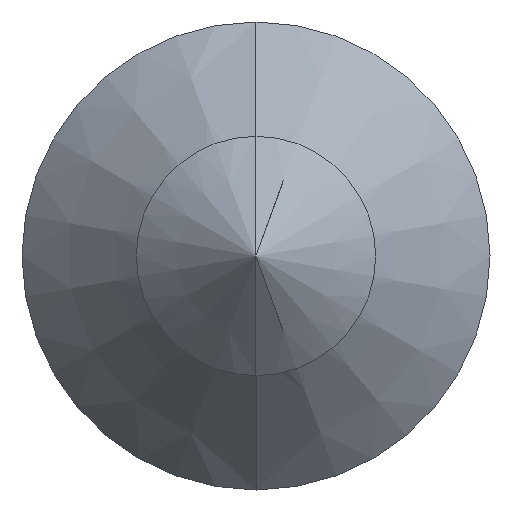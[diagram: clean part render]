
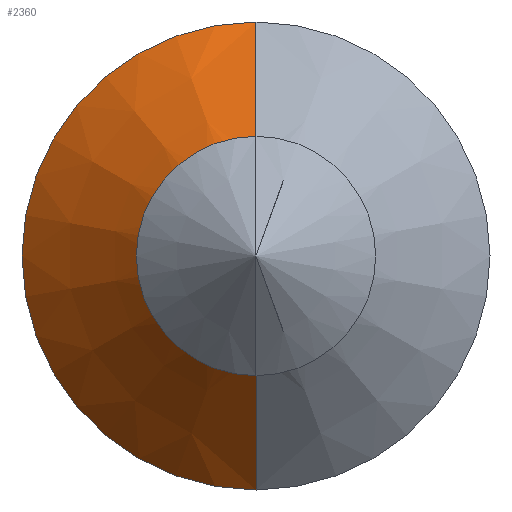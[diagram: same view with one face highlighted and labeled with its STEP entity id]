
A CAD part, left-side view. The second image highlights one B-rep face of the part: STEP entity #2360.
In plain terms, the highlighted conical face has half-angle 43.877 degrees and reference radius 2.15 mm.
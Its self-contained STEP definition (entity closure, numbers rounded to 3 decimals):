
#12 = DIRECTION ( 'NONE',  ( 0., 0., -1. ) ) ;
#193 = ORIENTED_EDGE ( 'NONE', *, *, #1099, .F. ) ;
#290 = ORIENTED_EDGE ( 'NONE', *, *, #1065, .T. ) ;
#368 = CARTESIAN_POINT ( 'NONE',  ( 5.62, 0., 0. ) ) ;
#441 = LINE ( 'NONE', #2481, #2165 ) ;
#504 = CIRCLE ( 'NONE', #1745, 2.15 ) ;
#570 = VERTEX_POINT ( 'NONE', #1074 ) ;
#576 = DIRECTION ( 'NONE',  ( 0., 0., -1. ) ) ;
#670 = CARTESIAN_POINT ( 'NONE',  ( 6.92, 0., 0. ) ) ;
#803 = EDGE_LOOP ( 'NONE', ( #1575, #290, #1011, #193 ) ) ;
#824 = AXIS2_PLACEMENT_3D ( 'NONE', #368, #1939, #576 ) ;
#856 = VERTEX_POINT ( 'NONE', #2258 ) ;
#905 = DIRECTION ( 'NONE',  ( 0., 0., -1. ) ) ;
#1011 = ORIENTED_EDGE ( 'NONE', *, *, #1073, .F. ) ;
#1065 = EDGE_CURVE ( 'NONE', #2770, #1355, #1702, .T. ) ;
#1073 = EDGE_CURVE ( 'NONE', #856, #1355, #504, .T. ) ;
#1074 = CARTESIAN_POINT ( 'NONE',  ( 5.62, 0., -0.9 ) ) ;
#1088 = CARTESIAN_POINT ( 'NONE',  ( 6.92, 0., 0. ) ) ;
#1099 = EDGE_CURVE ( 'NONE', #570, #856, #441, .T. ) ;
#1172 = AXIS2_PLACEMENT_3D ( 'NONE', #1088, #1544, #12 ) ;
#1175 = FACE_OUTER_BOUND ( 'NONE', #803, .T. ) ;
#1355 = VERTEX_POINT ( 'NONE', #2717 ) ;
#1387 = CARTESIAN_POINT ( 'NONE',  ( 5.62, 0., 0.9 ) ) ;
#1398 = CIRCLE ( 'NONE', #824, 0.9 ) ;
#1544 = DIRECTION ( 'NONE',  ( 1., 0., 0. ) ) ;
#1554 = CONICAL_SURFACE ( 'NONE', #1172, 2.15, 0.766 ) ;
#1575 = ORIENTED_EDGE ( 'NONE', *, *, #2641, .T. ) ;
#1702 = LINE ( 'NONE', #2233, #2828 ) ;
#1745 = AXIS2_PLACEMENT_3D ( 'NONE', #670, #2247, #905 ) ;
#1796 = DIRECTION ( 'NONE',  ( 0.721, 0., -0.693 ) ) ;
#1939 = DIRECTION ( 'NONE',  ( 1., 0., 0. ) ) ;
#2165 = VECTOR ( 'NONE', #1796, 1000. ) ;
#2233 = CARTESIAN_POINT ( 'NONE',  ( 6.92, 0., 2.15 ) ) ;
#2247 = DIRECTION ( 'NONE',  ( 1., 0., 0. ) ) ;
#2258 = CARTESIAN_POINT ( 'NONE',  ( 6.92, 0., -2.15 ) ) ;
#2360 = ADVANCED_FACE ( 'NONE', ( #1175 ), #1554, .T. ) ;
#2481 = CARTESIAN_POINT ( 'NONE',  ( 6.92, 0., -2.15 ) ) ;
#2641 = EDGE_CURVE ( 'NONE', #570, #2770, #1398, .T. ) ;
#2695 = DIRECTION ( 'NONE',  ( 0.721, 0., 0.693 ) ) ;
#2717 = CARTESIAN_POINT ( 'NONE',  ( 6.92, 0., 2.15 ) ) ;
#2770 = VERTEX_POINT ( 'NONE', #1387 ) ;
#2828 = VECTOR ( 'NONE', #2695, 1000. ) ;
